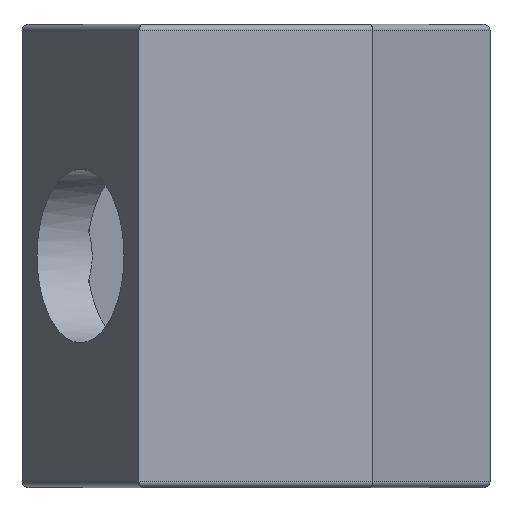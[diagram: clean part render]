
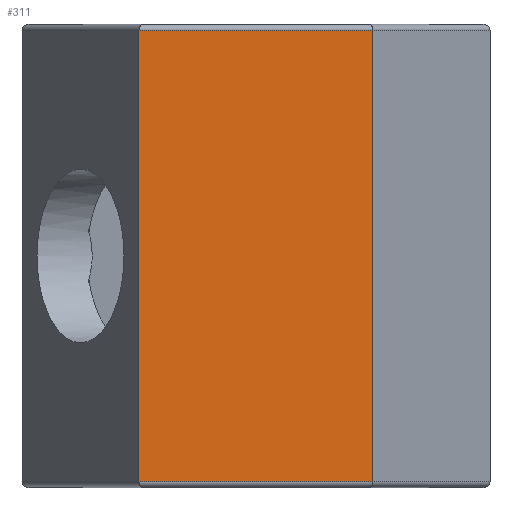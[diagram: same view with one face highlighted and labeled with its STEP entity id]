
A CAD part, left-side view. The second image highlights one B-rep face of the part: STEP entity #311.
In plain terms, the highlighted planar face has unit normal (-1, 0, 0).
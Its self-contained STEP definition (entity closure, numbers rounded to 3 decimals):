
#272=CARTESIAN_POINT('',(-3.5,0.,4.));
#273=DIRECTION('',(0.,-1.,0.));
#274=DIRECTION('',(-1.,0.,0.));
#275=AXIS2_PLACEMENT_3D('',#272,#274,#273);
#276=PLANE('',#275);
#277=CARTESIAN_POINT('',(-3.5,-2.021,0.1));
#278=VERTEX_POINT('',#277);
#279=CARTESIAN_POINT('',(-3.5,-2.021,7.9));
#280=VERTEX_POINT('',#279);
#281=CARTESIAN_POINT('',(-3.5,-2.021,0.1));
#282=DIRECTION('',(0.,0.,1.));
#283=VECTOR('',#282,7.8);
#284=LINE('',#281,#283);
#285=EDGE_CURVE('',#278,#280,#284,.T.);
#286=ORIENTED_EDGE('E15',*,*,#285,.T.);
#287=CARTESIAN_POINT('',(-3.5,2.021,7.9));
#288=VERTEX_POINT('',#287);
#289=CARTESIAN_POINT('',(-3.5,2.021,7.9));
#290=DIRECTION('',(0.,-1.,0.));
#291=VECTOR('',#290,4.041);
#292=LINE('',#289,#291);
#293=EDGE_CURVE('',#288,#280,#292,.T.);
#294=ORIENTED_EDGE('E45',*,*,#293,.F.);
#295=CARTESIAN_POINT('',(-3.5,2.021,0.1));
#296=VERTEX_POINT('',#295);
#297=CARTESIAN_POINT('',(-3.5,2.021,0.1));
#298=DIRECTION('',(0.,0.,1.));
#299=VECTOR('',#298,7.8);
#300=LINE('',#297,#299);
#301=EDGE_CURVE('',#296,#288,#300,.T.);
#302=ORIENTED_EDGE('E14',*,*,#301,.F.);
#303=CARTESIAN_POINT('',(-3.5,2.021,0.1));
#304=DIRECTION('',(0.,-1.,0.));
#305=VECTOR('',#304,4.041);
#306=LINE('',#303,#305);
#307=EDGE_CURVE('',#296,#278,#306,.T.);
#308=ORIENTED_EDGE('E39',*,*,#307,.T.);
#309=EDGE_LOOP('',(#286,#294,#302,#308));
#310=FACE_OUTER_BOUND('',#309,.T.);
#311=ADVANCED_FACE('F5',(#310),#276,.T.);
